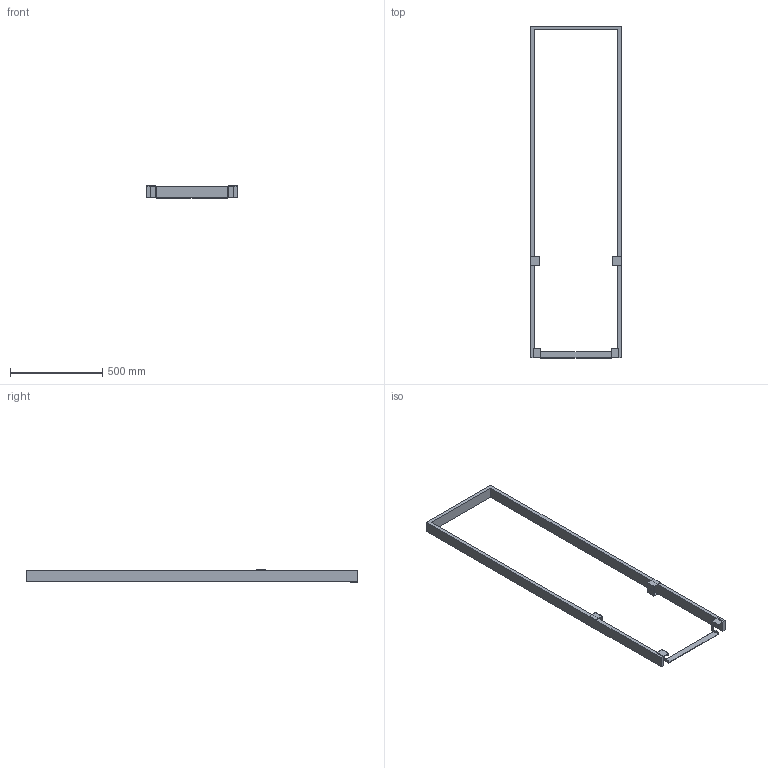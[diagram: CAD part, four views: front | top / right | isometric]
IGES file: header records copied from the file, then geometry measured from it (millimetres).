
Start section:  PTC IGES file: 52332459.igs
Global section: file name: 52332459.igs; native system: Creo Parametric by PTC Inc.; preprocessor: 2022162; author: wep; organization: Unknown; date: 20241218.131105; units: millimetre
Bounding box: 494 x 1800 x 65.5 mm (x, y, z)
Surface area: 728767.1 mm2 (no closed solid volume)
Topology: 0 solids, 0 shells, 58 faces, 320 edges, 320 vertices
Faces by surface type: bspline 52, revolution 6
